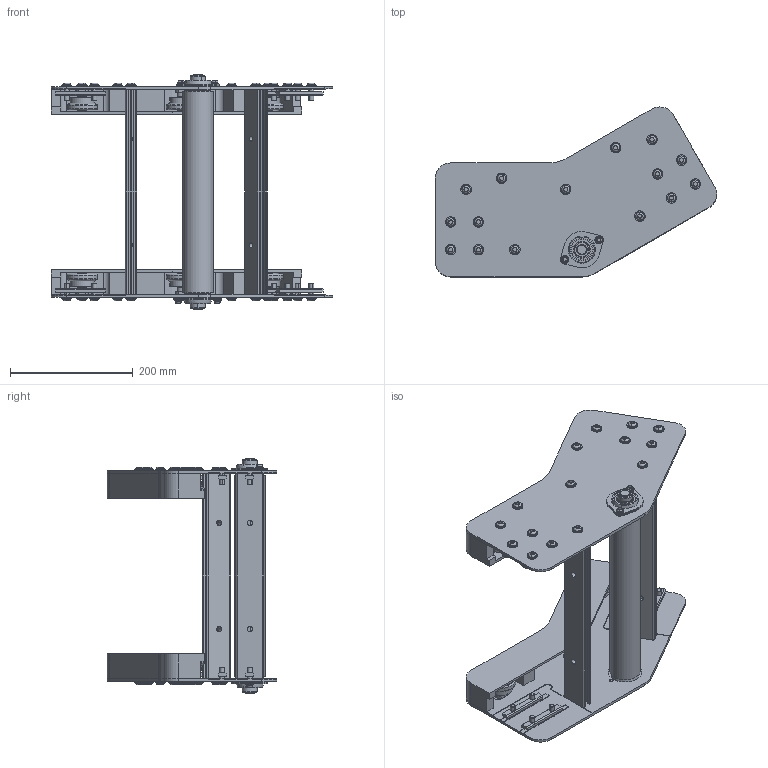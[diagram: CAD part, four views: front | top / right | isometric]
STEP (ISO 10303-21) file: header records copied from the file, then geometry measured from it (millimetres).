
FILE_DESCRIPTION (( 'STEP AP203' ), '1' );
FILE_NAME ('084.095.KA.30.300.STEP', '2019-07-30T08:33:17', ( '' ), ( '' ), 'SwSTEP 2.0', 'SolidWorks 2018', '' );
FILE_SCHEMA (( 'CONFIG_CONTROL_DESIGN' ));
Length unit declared in the file: millimetre
Products named in the file (17): circlip for shafts normal_din_PreviewCfg; 084.821.133_Default<A macchina>; VITI TESTA BOMBATA ISO 730 INOX_M6x10 ISO 7380 INOX; 084.821.105; 084.095.KA.30.300; 084.811.004; 084.821.132; 084.821.131; 084.302.016; CUSCINETTI A SFERE_6002-2Z; 084.821.102; RONDELLE UNI 6592_6.4x12.5 UNI 6592; RONDELLE UNI 6592_8.4x17 UNI 6592; 084.821.134_Default<A macchina>; 084.821.103; SBPFL 203; VITI TESTA BOMBATA ISO 730 INOX_M8x25 ISO 7380 INOX
Assembly tree (129 placements, depth 2):
  084.095.KA.30.300
    084.821.133_Default<A macchina>
    084.821.134_Default<A macchina>  x2
    084.821.131  x2
    084.821.132  x2
    084.821.103  x6
    084.821.105  x6
    084.821.102  x6
    084.302.016  x8
    084.811.004  x2
    CUSCINETTI A SFERE_6002-2Z  x12
    SBPFL 203  x2
    circlip for shafts normal_din_PreviewCfg  x12
    VITI TESTA BOMBATA ISO 730 INOX_M8x25 ISO 7380 INOX  x30
    RONDELLE UNI 6592_8.4x17 UNI 6592  x30
    VITI TESTA BOMBATA ISO 730 INOX_M6x10 ISO 7380 INOX  x4
    RONDELLE UNI 6592_6.4x12.5 UNI 6592  x4
Bounding box: 457.36 x 276.06 x 381 mm (x, y, z)
Volume: 2402936.1 mm3; surface area: 1070472.7 mm2
Topology: 133 solids, 133 shells, 2491 faces, 5873 edges, 3800 vertices
Faces by surface type: plane 1056, cylinder 1011, cone 208, torus 196, sphere 20
Entity records: 22691 total; most frequent: DIRECTION 3356, CARTESIAN_POINT 3298, ORIENTED_EDGE 2832, EDGE_CURVE 1416, AXIS2_PLACEMENT_3D 1282, VERTEX_POINT 928, LINE 792, VECTOR 792
